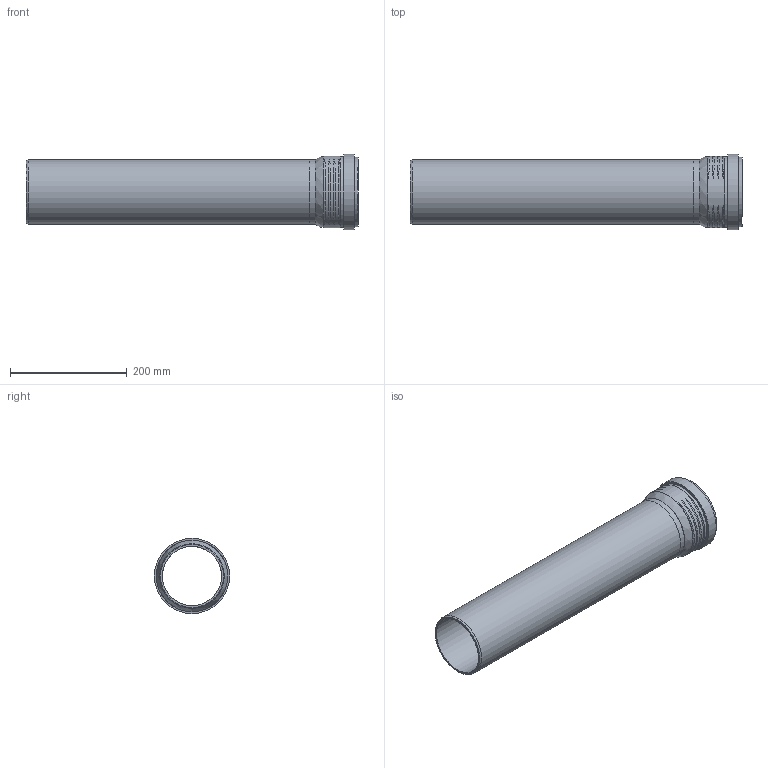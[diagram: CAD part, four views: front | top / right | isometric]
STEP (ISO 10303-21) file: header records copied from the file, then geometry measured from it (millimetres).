
FILE_DESCRIPTION(/* description */ (''),/* implementation_level */ '2;1');
FILE_NAME(/* name */ 'H:\Geberit-Teile\Export\PP_Rohr\stp\393502.stp',/* time_stamp */ '2017-02-13T16:08:18+01:00',/* author */ ('seihe2'),/* organization */ (''),/* preprocessor_version */ 'ST-DEVELOPER v15.2',/* originating_system */ 'Autodesk Inventor 2014',/* authorisation */ '');
FILE_SCHEMA (('AUTOMOTIVE_DESIGN { 1 0 10303 214 3 1 1 }'));
Length unit declared in the file: millimetre
Products named in the file (1): 393502
Bounding box: 568.1 x 128.7 x 128.7 mm (x, y, z)
Volume: 882094.1 mm3; surface area: 404686.1 mm2
Topology: 2 solids, 2 shells, 38 faces, 81 edges, 56 vertices
Faces by surface type: torus 17, cylinder 10, plane 8, cone 2, bspline 1
Full cylindrical faces by diameter (mm): 101.2 x2, 110.2 x2, 111.1 x1, 113.7 x1, 119.5 x1, 121.3 x1, 122.1 x1, 128.7 x1
Entity records: 2113 total; most frequent: CARTESIAN_POINT 1334, DIRECTION 130, ORIENTED_EDGE 124, EDGE_LOOP 69, AXIS2_PLACEMENT_3D 65, EDGE_CURVE 62, VERTEX_POINT 55, STYLED_ITEM 40
